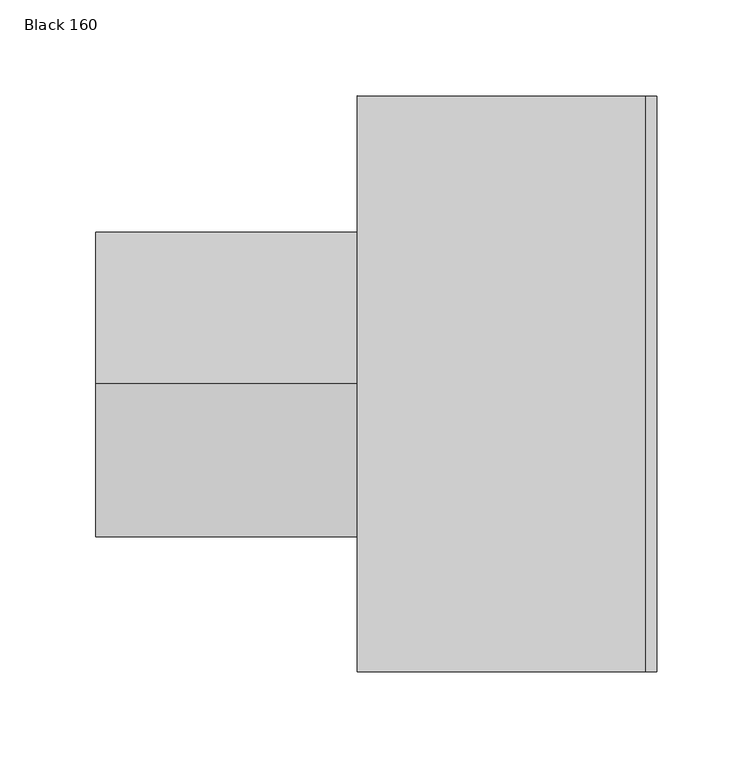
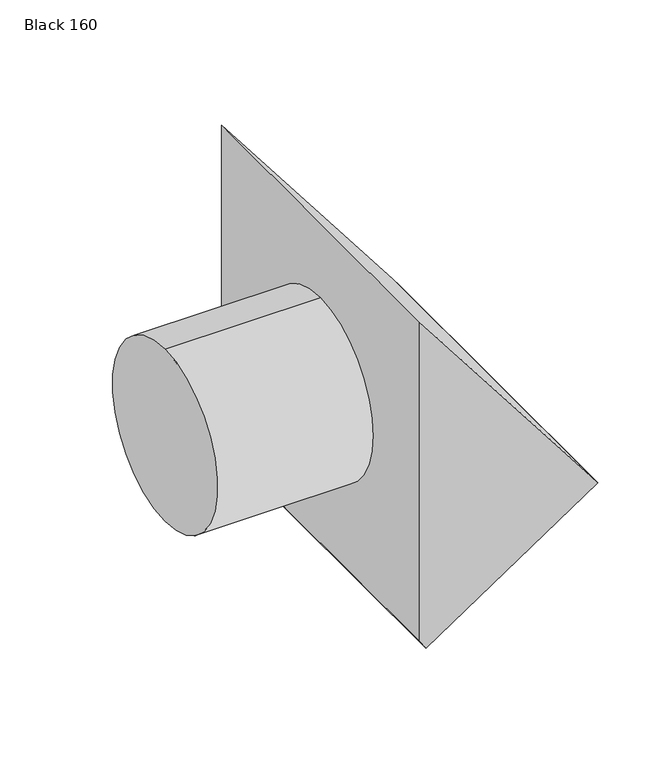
"""IFC4 building model written with IfcOpenShell, lengths in millimetres: air terminal geometry, NLRS_57_AIR_LB_walloutlet terminals_M&G : Black 160."""

from ifc_helpers import new_model, si_unit, point, frame, origin, origin_2d, place, context, project, spatial, circle_curve, trimmed, segment, composite_curve, outline, extrude, faceted_brep, source, transform, mapped, element, save


def black_160_5426341e(model_context):
    return source(origin(), model_context, "Body", "SolidModel", [
        extrude(outline(composite_curve([segment(trimmed(circle_curve(origin_2d(), 79.5), [point((0.0, 79.5))], [point((0.0, -79.5))], False, "CARTESIAN"), True, "CONTINUOUS"), segment(trimmed(circle_curve(origin_2d(), 79.5), [point((0.0, -79.5))], [point((0.0, 79.5))], False, "CARTESIAN"), True, "CONTINUOUS")], self_intersect=False)), frame((-136.0, 0.0, 0.0), z_axis=(1.0, 0.0, 0.0), x_axis=(0.0, 1.0, 0.0)), (0.0, 0.0, 1.0), 136.0),
        faceted_brep([(150.0, -150.0, -47.0), (0.0, -150.0, 148.0), (0.0, -150.0, -147.1514627), (5.5528144, -150.0, -155.4680877), (156.1108159, -150.0, -54.9440606), (150.0, 150.0, -47.0), (156.1108159, 150.0, -54.9440606), (5.5528144, 150.0, -155.4680877), (0.0, 150.0, -147.1514627), (0.0, 150.0, 148.0), (153.1999971, 146.5, -56.8875457), (8.4636332, 146.5, -153.5246027), (8.4636332, -146.5, -153.5246027), (153.1999971, -146.5, -56.8875457), (147.6471827, 146.5, -48.5709206), (147.6471827, -146.5, -48.5709206), (2.9108188, -146.5, -145.2079776), (2.9108188, 146.5, -145.2079776)], [[[0, 1, 2, 3, 4]], [[5, 6, 7, 8, 9]], [[1, 0, 5, 9]], [[2, 1, 9, 8]], [[3, 2, 8, 7]], [[4, 3, 7, 6], [10, 11, 12, 13]], [[0, 4, 6, 5]], [[14, 15, 16, 17]], [[14, 17, 11, 10]], [[17, 16, 12, 11]], [[16, 15, 13, 12]], [[15, 14, 10, 13]]]),
    ])


if __name__ == "__main__":
    model = new_model("IFC4")
    model_context = context("Model", 3, world=origin())
    ifc_project = project(units=[si_unit("LENGTHUNIT", "METRE", prefix="MILLI")], contexts=[model_context])
    site = spatial("IfcSite", under=ifc_project)
    building = spatial("IfcBuilding", under=site)
    placement = place(None, origin())
    black_160_shape = black_160_5426341e(model_context)
    element("IfcAirTerminal", 1, ObjectType="NLRS_57_AIR_LB_walloutlet terminals_M&G : Black 160", at=placement, inside=building, context=model_context, shape_type="MappedRepresentation", body=[
        mapped(black_160_shape, transform((0.0, 0.0, 0.0), x_axis=(1.0, 0.0, 0.0), y_axis=(0.0, 1.0, 0.0), z_axis=(0.0, 0.0, 1.0))),
    ])
    save(model, "model.ifc")
